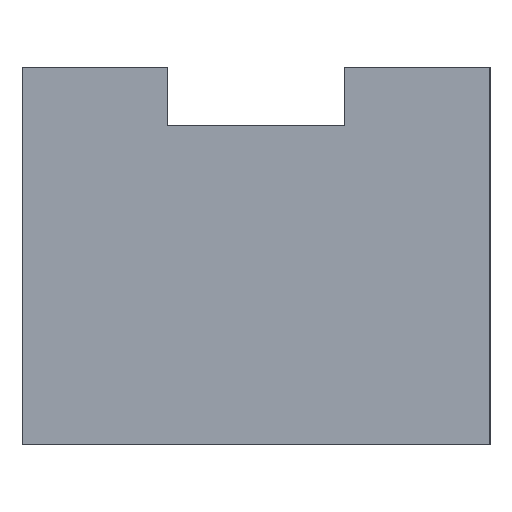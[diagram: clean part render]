
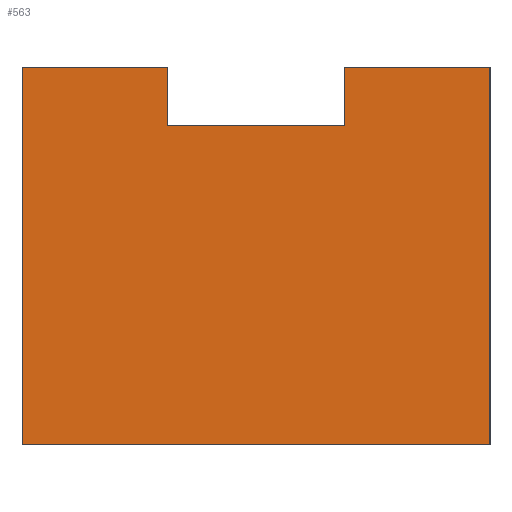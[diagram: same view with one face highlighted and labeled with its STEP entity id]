
A CAD part, left-side view. The second image highlights one B-rep face of the part: STEP entity #563.
In plain terms, the highlighted planar face has unit normal (-1, 0, 0).
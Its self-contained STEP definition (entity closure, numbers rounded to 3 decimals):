
#28 = DIRECTION ( 'NONE',  ( 0., -1., 0. ) ) ;
#34 = LINE ( 'NONE', #710, #402 ) ;
#40 = FACE_OUTER_BOUND ( 'NONE', #412, .T. ) ;
#63 = DIRECTION ( 'NONE',  ( 0., 0., -1. ) ) ;
#119 = CARTESIAN_POINT ( 'NONE',  ( -94., 22., 23. ) ) ;
#137 = VERTEX_POINT ( 'NONE', #551 ) ;
#146 = EDGE_CURVE ( 'NONE', #507, #435, #34, .T. ) ;
#152 = DIRECTION ( 'NONE',  ( 0., 0., -1. ) ) ;
#189 = LINE ( 'NONE', #922, #792 ) ;
#194 = VECTOR ( 'NONE', #63, 1000. ) ;
#198 = DIRECTION ( 'NONE',  ( 1., 0., 0. ) ) ;
#204 = VECTOR ( 'NONE', #860, 1000. ) ;
#239 = CARTESIAN_POINT ( 'NONE',  ( -94., -22., 0. ) ) ;
#243 = CARTESIAN_POINT ( 'NONE',  ( -94., -8.3, 35.5 ) ) ;
#248 = EDGE_CURVE ( 'NONE', #435, #599, #263, .T. ) ;
#255 = EDGE_CURVE ( 'NONE', #888, #425, #189, .T. ) ;
#263 = LINE ( 'NONE', #557, #669 ) ;
#264 = CARTESIAN_POINT ( 'NONE',  ( -94., 22., 30. ) ) ;
#269 = VECTOR ( 'NONE', #28, 1000. ) ;
#279 = VERTEX_POINT ( 'NONE', #789 ) ;
#280 = ORIENTED_EDGE ( 'NONE', *, *, #248, .F. ) ;
#289 = EDGE_CURVE ( 'NONE', #543, #137, #648, .T. ) ;
#333 = PLANE ( 'NONE',  #616 ) ;
#341 = CARTESIAN_POINT ( 'NONE',  ( -94., -8.3, 35.5 ) ) ;
#360 = EDGE_CURVE ( 'NONE', #507, #279, #521, .T. ) ;
#402 = VECTOR ( 'NONE', #701, 1000. ) ;
#412 = EDGE_LOOP ( 'NONE', ( #689, #615, #805, #537, #639, #280, #570, #462 ) ) ;
#425 = VERTEX_POINT ( 'NONE', #239 ) ;
#435 = VERTEX_POINT ( 'NONE', #525 ) ;
#442 = CARTESIAN_POINT ( 'NONE',  ( -94., -8.3, 35.5 ) ) ;
#462 = ORIENTED_EDGE ( 'NONE', *, *, #360, .T. ) ;
#491 = DIRECTION ( 'NONE',  ( 0., 0., -1. ) ) ;
#507 = VERTEX_POINT ( 'NONE', #781 ) ;
#521 = LINE ( 'NONE', #660, #637 ) ;
#525 = CARTESIAN_POINT ( 'NONE',  ( -94., 8.3, 35.5 ) ) ;
#537 = ORIENTED_EDGE ( 'NONE', *, *, #289, .T. ) ;
#538 = EDGE_CURVE ( 'NONE', #279, #425, #545, .T. ) ;
#543 = VERTEX_POINT ( 'NONE', #341 ) ;
#545 = LINE ( 'NONE', #699, #771 ) ;
#551 = CARTESIAN_POINT ( 'NONE',  ( -94., -8.3, 30. ) ) ;
#557 = CARTESIAN_POINT ( 'NONE',  ( -94., 8.3, 35.5 ) ) ;
#563 = ADVANCED_FACE ( 'NONE', ( #40 ), #333, .F. ) ;
#570 = ORIENTED_EDGE ( 'NONE', *, *, #146, .F. ) ;
#599 = VERTEX_POINT ( 'NONE', #842 ) ;
#607 = LINE ( 'NONE', #243, #269 ) ;
#615 = ORIENTED_EDGE ( 'NONE', *, *, #255, .F. ) ;
#616 = AXIS2_PLACEMENT_3D ( 'NONE', #119, #198, #491 ) ;
#628 = CARTESIAN_POINT ( 'NONE',  ( -94., -22., 35.5 ) ) ;
#630 = DIRECTION ( 'NONE',  ( 0., 0., -1. ) ) ;
#637 = VECTOR ( 'NONE', #152, 1000. ) ;
#639 = ORIENTED_EDGE ( 'NONE', *, *, #844, .F. ) ;
#648 = LINE ( 'NONE', #442, #194 ) ;
#660 = CARTESIAN_POINT ( 'NONE',  ( -94., 22., 23. ) ) ;
#669 = VECTOR ( 'NONE', #630, 1000. ) ;
#689 = ORIENTED_EDGE ( 'NONE', *, *, #538, .T. ) ;
#699 = CARTESIAN_POINT ( 'NONE',  ( -94., 22., 0. ) ) ;
#701 = DIRECTION ( 'NONE',  ( 0., -1., 0. ) ) ;
#705 = DIRECTION ( 'NONE',  ( 0., -1., 0. ) ) ;
#710 = CARTESIAN_POINT ( 'NONE',  ( -94., 22., 35.5 ) ) ;
#771 = VECTOR ( 'NONE', #705, 1000. ) ;
#781 = CARTESIAN_POINT ( 'NONE',  ( -94., 22., 35.5 ) ) ;
#789 = CARTESIAN_POINT ( 'NONE',  ( -94., 22., 0. ) ) ;
#792 = VECTOR ( 'NONE', #878, 1000. ) ;
#795 = EDGE_CURVE ( 'NONE', #543, #888, #607, .T. ) ;
#805 = ORIENTED_EDGE ( 'NONE', *, *, #795, .F. ) ;
#842 = CARTESIAN_POINT ( 'NONE',  ( -94., 8.3, 30. ) ) ;
#844 = EDGE_CURVE ( 'NONE', #599, #137, #924, .T. ) ;
#860 = DIRECTION ( 'NONE',  ( 0., -1., 0. ) ) ;
#878 = DIRECTION ( 'NONE',  ( 0., 0., -1. ) ) ;
#888 = VERTEX_POINT ( 'NONE', #628 ) ;
#922 = CARTESIAN_POINT ( 'NONE',  ( -94., -22., 23. ) ) ;
#924 = LINE ( 'NONE', #264, #204 ) ;
